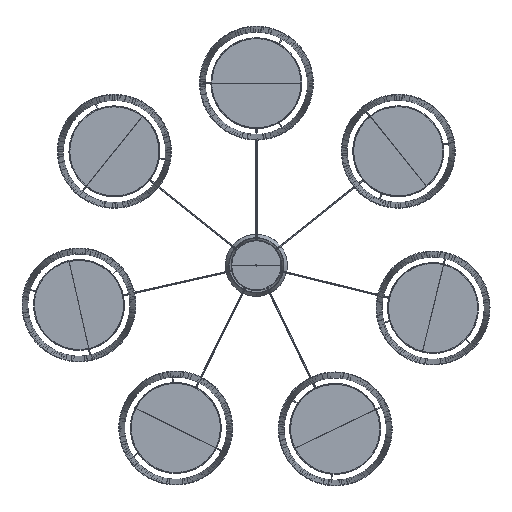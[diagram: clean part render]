
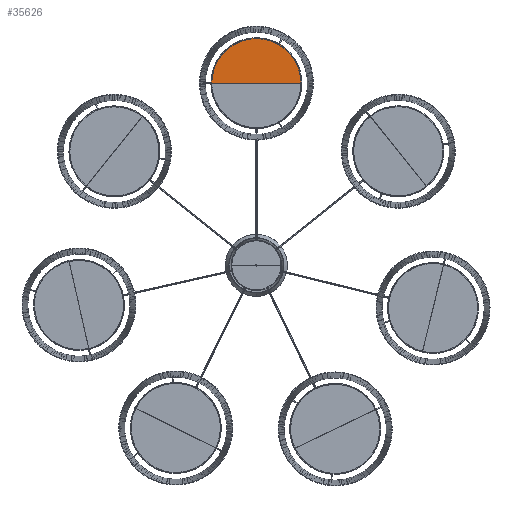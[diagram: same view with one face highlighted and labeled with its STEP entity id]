
A CAD part, top view. The second image highlights one B-rep face of the part: STEP entity #35626.
In plain terms, the highlighted planar face has unit normal (0, 0, 1) as drawn and (0, 0, -1) by its records, which use the part's own axes.
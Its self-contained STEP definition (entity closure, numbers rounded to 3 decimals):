
#2978=PLANE('',#38862);
#5152=FACE_OUTER_BOUND('',#7420,.T.);
#7420=EDGE_LOOP('',(#32880,#32881));
#10817=LINE('',#74162,#14206);
#14206=VECTOR('',#48307,304.8);
#15061=CIRCLE('',#38858,198.182);
#18177=VERTEX_POINT('',#74148);
#18179=VERTEX_POINT('',#74152);
#23112=EDGE_CURVE('',#18179,#18177,#15061,.T.);
#23114=EDGE_CURVE('',#18177,#18179,#10817,.T.);
#32880=ORIENTED_EDGE('',*,*,#23114,.T.);
#32881=ORIENTED_EDGE('',*,*,#23112,.T.);
#35626=ADVANCED_FACE('',(#5152),#2978,.F.);
#38858=AXIS2_PLACEMENT_3D('',#74157,#48298,#48299);
#38862=AXIS2_PLACEMENT_3D('',#74163,#48308,#48309);
#48298=DIRECTION('center_axis',(0.,0.,-1.));
#48299=DIRECTION('ref_axis',(1.,0.,0.));
#48307=DIRECTION('',(-1.,0.,0.));
#48308=DIRECTION('center_axis',(0.,0.,1.));
#48309=DIRECTION('ref_axis',(1.,0.,0.));
#74148=CARTESIAN_POINT('',(198.182,800.,671.244));
#74152=CARTESIAN_POINT('',(-198.182,800.,671.244));
#74157=CARTESIAN_POINT('Origin',(0.,800.,
671.244));
#74162=CARTESIAN_POINT('',(198.182,800.,671.244));
#74163=CARTESIAN_POINT('Origin',(0.,800.,
671.244));
